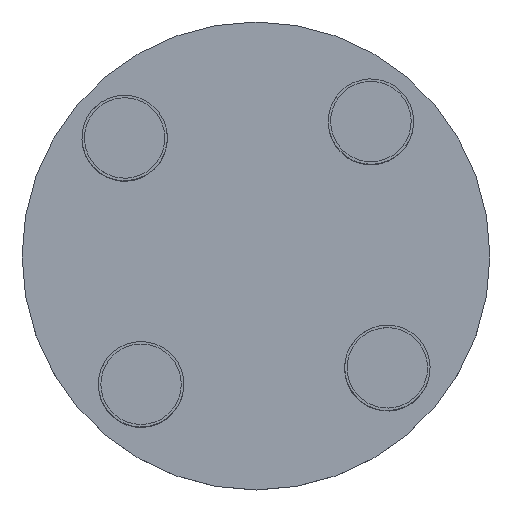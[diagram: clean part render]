
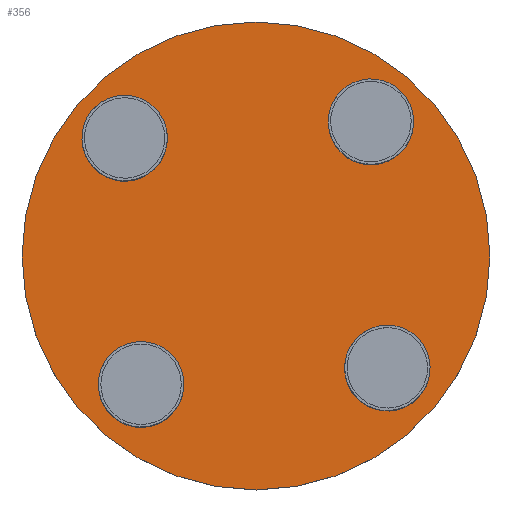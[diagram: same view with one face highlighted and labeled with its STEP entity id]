
A CAD part, top view. The second image highlights one B-rep face of the part: STEP entity #356.
In plain terms, the highlighted planar face has unit normal (0, 0, 1).
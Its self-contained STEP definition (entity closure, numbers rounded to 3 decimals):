
#71=FACE_BOUND('',#159,.T.);
#72=FACE_BOUND('',#160,.T.);
#73=FACE_BOUND('',#161,.T.);
#74=FACE_BOUND('',#162,.T.);
#114=FACE_OUTER_BOUND('',#158,.T.);
#158=EDGE_LOOP('',(#278));
#159=EDGE_LOOP('',(#279));
#160=EDGE_LOOP('',(#280));
#161=EDGE_LOOP('',(#281));
#162=EDGE_LOOP('',(#282));
#178=CIRCLE('',#439,10.);
#180=CIRCLE('',#443,10.);
#182=CIRCLE('',#447,10.);
#184=CIRCLE('',#451,10.);
#185=CIRCLE('',#454,142.5);
#202=VERTEX_POINT('',#652);
#204=VERTEX_POINT('',#658);
#206=VERTEX_POINT('',#664);
#208=VERTEX_POINT('',#670);
#209=VERTEX_POINT('',#674);
#226=EDGE_CURVE('',#202,#202,#178,.T.);
#228=EDGE_CURVE('',#204,#204,#180,.T.);
#230=EDGE_CURVE('',#206,#206,#182,.T.);
#232=EDGE_CURVE('',#208,#208,#184,.T.);
#233=EDGE_CURVE('',#209,#209,#185,.T.);
#278=ORIENTED_EDGE('',*,*,#233,.T.);
#279=ORIENTED_EDGE('',*,*,#226,.T.);
#280=ORIENTED_EDGE('',*,*,#228,.T.);
#281=ORIENTED_EDGE('',*,*,#230,.T.);
#282=ORIENTED_EDGE('',*,*,#232,.T.);
#298=PLANE('',#457);
#356=ADVANCED_FACE('',(#114,#71,#72,#73,#74),#298,.T.);
#439=AXIS2_PLACEMENT_3D('',#653,#547,#548);
#443=AXIS2_PLACEMENT_3D('',#659,#555,#556);
#447=AXIS2_PLACEMENT_3D('',#665,#563,#564);
#451=AXIS2_PLACEMENT_3D('',#671,#571,#572);
#454=AXIS2_PLACEMENT_3D('',#675,#577,#578);
#457=AXIS2_PLACEMENT_3D('',#679,#583,#584);
#547=DIRECTION('center_axis',(0.,0.,-1.));
#548=DIRECTION('ref_axis',(-1.,0.,0.));
#555=DIRECTION('center_axis',(0.,0.,-1.));
#556=DIRECTION('ref_axis',(-1.,0.,0.));
#563=DIRECTION('center_axis',(0.,0.,-1.));
#564=DIRECTION('ref_axis',(-1.,0.,0.));
#571=DIRECTION('center_axis',(0.,0.,-1.));
#572=DIRECTION('ref_axis',(-1.,0.,0.));
#577=DIRECTION('center_axis',(0.,0.,1.));
#578=DIRECTION('ref_axis',(-1.,0.,0.));
#583=DIRECTION('center_axis',(0.,0.,1.));
#584=DIRECTION('ref_axis',(1.,0.,0.));
#652=CARTESIAN_POINT('',(90.,-70.,20.));
#653=CARTESIAN_POINT('Origin',(80.,-70.,20.));
#658=CARTESIAN_POINT('',(-70.,70.,20.));
#659=CARTESIAN_POINT('Origin',(-80.,70.,20.));
#664=CARTESIAN_POINT('',(80.,80.,20.));
#665=CARTESIAN_POINT('Origin',(70.,80.,20.));
#670=CARTESIAN_POINT('',(-60.,-80.,20.));
#671=CARTESIAN_POINT('Origin',(-70.,-80.,20.));
#674=CARTESIAN_POINT('',(142.5,0.,20.));
#675=CARTESIAN_POINT('Origin',(0.,0.,20.));
#679=CARTESIAN_POINT('Origin',(0.,0.,
20.));
